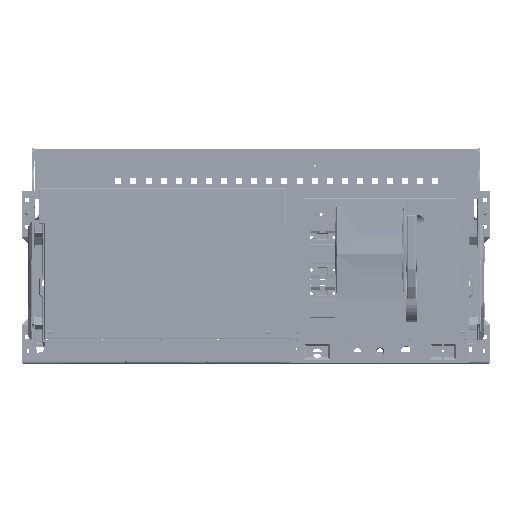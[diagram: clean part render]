
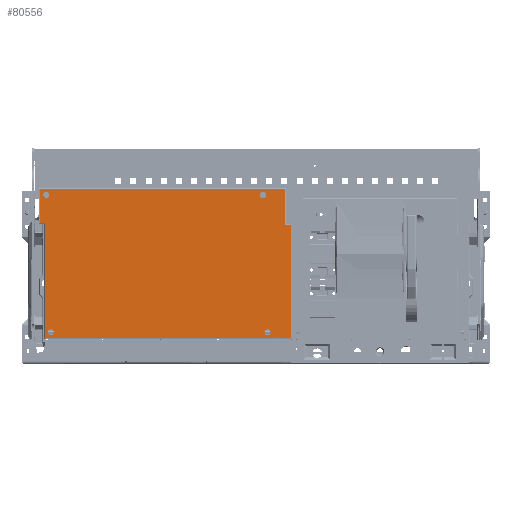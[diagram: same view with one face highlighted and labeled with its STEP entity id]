
A CAD part, top view. The second image highlights one B-rep face of the part: STEP entity #80556.
In plain terms, the highlighted planar face has unit normal (0, 0, 1) as drawn and (0, 1, 0) by its records, which use the part's own axes.
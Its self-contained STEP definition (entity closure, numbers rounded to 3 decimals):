
#79311=CARTESIAN_POINT('',(14.5,78.,-136.5));
#79312=DIRECTION('',(0.,1.,0.));
#79313=DIRECTION('',(1.,0.,0.));
#79314=AXIS2_PLACEMENT_3D('',#79311,#79312,#79313);
#79319=CARTESIAN_POINT('',(14.5,78.,-136.5));
#79320=DIRECTION('',(0.,1.,0.));
#79321=DIRECTION('',(-1.,0.,0.));
#79322=AXIS2_PLACEMENT_3D('',#79319,#79320,#79321);
#79327=CARTESIAN_POINT('',(445.5,78.,-136.5));
#79328=DIRECTION('',(0.,1.,0.));
#79329=DIRECTION('',(1.,0.,0.));
#79330=AXIS2_PLACEMENT_3D('',#79327,#79328,#79329);
#79335=CARTESIAN_POINT('',(445.5,78.,-136.5));
#79336=DIRECTION('',(0.,1.,0.));
#79337=DIRECTION('',(-1.,0.,0.));
#79338=AXIS2_PLACEMENT_3D('',#79335,#79336,#79337);
#79343=CARTESIAN_POINT('',(23.5,78.,136.5));
#79344=DIRECTION('',(0.,1.,0.));
#79345=DIRECTION('',(1.,0.,0.));
#79346=AXIS2_PLACEMENT_3D('',#79343,#79344,#79345);
#79351=CARTESIAN_POINT('',(23.5,78.,136.5));
#79352=DIRECTION('',(0.,1.,0.));
#79353=DIRECTION('',(-1.,0.,0.));
#79354=AXIS2_PLACEMENT_3D('',#79351,#79352,#79353);
#79359=CARTESIAN_POINT('',(454.5,78.,136.5));
#79360=DIRECTION('',(0.,1.,0.));
#79361=DIRECTION('',(1.,0.,0.));
#79362=AXIS2_PLACEMENT_3D('',#79359,#79360,#79361);
#79367=CARTESIAN_POINT('',(454.5,78.,136.5));
#79368=DIRECTION('',(0.,1.,0.));
#79369=DIRECTION('',(-1.,0.,0.));
#79370=AXIS2_PLACEMENT_3D('',#79367,#79368,#79369);
#80003=DIRECTION('',(0.,0.,-1.));
#80004=VECTOR('',#80003,226.);
#80005=CARTESIAN_POINT('',(500.5,78.,148.5));
#80006=LINE('',#80005,#80004);
#80029=DIRECTION('',(-1.,0.,0.));
#80030=VECTOR('',#80029,11.);
#80031=CARTESIAN_POINT('',(500.5,78.,-77.5));
#80032=LINE('',#80031,#80030);
#80055=DIRECTION('',(0.,0.,-1.));
#80056=VECTOR('',#80055,71.);
#80057=CARTESIAN_POINT('',(489.5,78.,-77.5));
#80058=LINE('',#80057,#80056);
#80081=DIRECTION('',(-1.,0.,0.));
#80082=VECTOR('',#80081,488.);
#80083=CARTESIAN_POINT('',(489.5,78.,-148.5));
#80084=LINE('',#80083,#80082);
#80119=DIRECTION('',(0.,0.,1.));
#80120=VECTOR('',#80119,68.);
#80121=CARTESIAN_POINT('',(1.5,78.,-148.5));
#80122=LINE('',#80121,#80120);
#80133=DIRECTION('',(1.,0.,0.));
#80134=VECTOR('',#80133,11.);
#80135=CARTESIAN_POINT('',(1.5,78.,-80.5));
#80136=LINE('',#80135,#80134);
#80159=DIRECTION('',(0.,0.,1.));
#80160=VECTOR('',#80159,229.);
#80161=CARTESIAN_POINT('',(12.5,78.,-80.5));
#80162=LINE('',#80161,#80160);
#80185=DIRECTION('',(1.,0.,0.));
#80186=VECTOR('',#80185,488.);
#80187=CARTESIAN_POINT('',(12.5,78.,148.5));
#80188=LINE('',#80187,#80186);
#80397=CARTESIAN_POINT('',(20.5,78.,-136.5));
#80398=CARTESIAN_POINT('',(8.5,78.,-136.5));
#80399=VERTEX_POINT('',#80397);
#80400=VERTEX_POINT('',#80398);
#80401=CARTESIAN_POINT('',(451.5,78.,-136.5));
#80402=CARTESIAN_POINT('',(439.5,78.,-136.5));
#80403=VERTEX_POINT('',#80401);
#80404=VERTEX_POINT('',#80402);
#80405=CARTESIAN_POINT('',(29.5,78.,136.5));
#80406=CARTESIAN_POINT('',(17.5,78.,136.5));
#80407=VERTEX_POINT('',#80405);
#80408=VERTEX_POINT('',#80406);
#80409=CARTESIAN_POINT('',(460.5,78.,136.5));
#80410=CARTESIAN_POINT('',(448.5,78.,136.5));
#80411=VERTEX_POINT('',#80409);
#80412=VERTEX_POINT('',#80410);
#80461=CARTESIAN_POINT('',(489.5,78.,-148.5));
#80462=CARTESIAN_POINT('',(1.5,78.,-148.5));
#80463=VERTEX_POINT('',#80461);
#80464=VERTEX_POINT('',#80462);
#80469=CARTESIAN_POINT('',(1.5,78.,-80.5));
#80470=VERTEX_POINT('',#80469);
#80473=CARTESIAN_POINT('',(12.5,78.,-80.5));
#80474=VERTEX_POINT('',#80473);
#80477=CARTESIAN_POINT('',(12.5,78.,148.5));
#80478=VERTEX_POINT('',#80477);
#80481=CARTESIAN_POINT('',(500.5,78.,148.5));
#80482=VERTEX_POINT('',#80481);
#80485=CARTESIAN_POINT('',(500.5,78.,-77.5));
#80486=VERTEX_POINT('',#80485);
#80489=CARTESIAN_POINT('',(489.5,78.,-77.5));
#80490=VERTEX_POINT('',#80489);
#80509=CARTESIAN_POINT('',(0.,78.,0.));
#80510=DIRECTION('',(0.,1.,0.));
#80511=DIRECTION('',(1.,0.,0.));
#80512=AXIS2_PLACEMENT_3D('',#80509,#80510,#80511);
#80513=PLANE('',#80512);
#80515=ORIENTED_EDGE('',*,*,#80514,.F.);
#80517=ORIENTED_EDGE('',*,*,#80516,.F.);
#80519=ORIENTED_EDGE('',*,*,#80518,.F.);
#80521=ORIENTED_EDGE('',*,*,#80520,.F.);
#80523=ORIENTED_EDGE('',*,*,#80522,.F.);
#80525=ORIENTED_EDGE('',*,*,#80524,.F.);
#80527=ORIENTED_EDGE('',*,*,#80526,.F.);
#80529=ORIENTED_EDGE('',*,*,#80528,.F.);
#80530=EDGE_LOOP('',(#80515,#80517,#80519,#80521,#80523,#80525,#80527,#80529));
#80531=FACE_OUTER_BOUND('',#80530,.F.);
#80533=ORIENTED_EDGE('',*,*,#80532,.T.);
#80535=ORIENTED_EDGE('',*,*,#80534,.T.);
#80536=EDGE_LOOP('',(#80533,#80535));
#80537=FACE_BOUND('',#80536,.F.);
#80539=ORIENTED_EDGE('',*,*,#80538,.T.);
#80541=ORIENTED_EDGE('',*,*,#80540,.T.);
#80542=EDGE_LOOP('',(#80539,#80541));
#80543=FACE_BOUND('',#80542,.F.);
#80545=ORIENTED_EDGE('',*,*,#80544,.T.);
#80547=ORIENTED_EDGE('',*,*,#80546,.T.);
#80548=EDGE_LOOP('',(#80545,#80547));
#80549=FACE_BOUND('',#80548,.F.);
#80551=ORIENTED_EDGE('',*,*,#80550,.T.);
#80553=ORIENTED_EDGE('',*,*,#80552,.T.);
#80554=EDGE_LOOP('',(#80551,#80553));
#80555=FACE_BOUND('',#80554,.F.);
#80556=ADVANCED_FACE('',(#80531,#80537,#80543,#80549,#80555),#80513,.T.);
#79315=CIRCLE('',#79314,6.);
#79323=CIRCLE('',#79322,6.);
#79331=CIRCLE('',#79330,6.);
#79339=CIRCLE('',#79338,6.);
#79347=CIRCLE('',#79346,6.);
#79355=CIRCLE('',#79354,6.);
#79363=CIRCLE('',#79362,6.);
#79371=CIRCLE('',#79370,6.);
#80514=EDGE_CURVE('',#80463,#80464,#80084,.T.);
#80516=EDGE_CURVE('',#80490,#80463,#80058,.T.);
#80518=EDGE_CURVE('',#80486,#80490,#80032,.T.);
#80520=EDGE_CURVE('',#80482,#80486,#80006,.T.);
#80522=EDGE_CURVE('',#80478,#80482,#80188,.T.);
#80524=EDGE_CURVE('',#80474,#80478,#80162,.T.);
#80526=EDGE_CURVE('',#80470,#80474,#80136,.T.);
#80528=EDGE_CURVE('',#80464,#80470,#80122,.T.);
#80532=EDGE_CURVE('',#80403,#80404,#79331,.T.);
#80534=EDGE_CURVE('',#80404,#80403,#79339,.T.);
#80538=EDGE_CURVE('',#80407,#80408,#79347,.T.);
#80540=EDGE_CURVE('',#80408,#80407,#79355,.T.);
#80544=EDGE_CURVE('',#80411,#80412,#79363,.T.);
#80546=EDGE_CURVE('',#80412,#80411,#79371,.T.);
#80550=EDGE_CURVE('',#80399,#80400,#79315,.T.);
#80552=EDGE_CURVE('',#80400,#80399,#79323,.T.);
